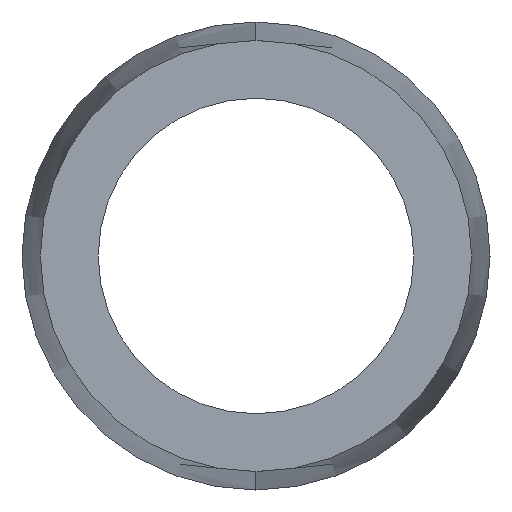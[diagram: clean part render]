
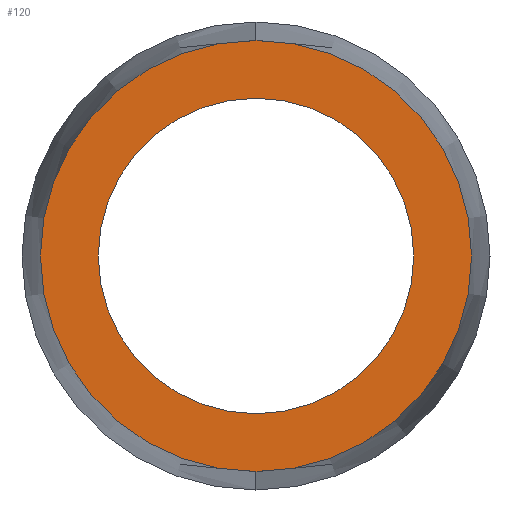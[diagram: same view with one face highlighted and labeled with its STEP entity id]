
A CAD part, left-side view. The second image highlights one B-rep face of the part: STEP entity #120.
In plain terms, the highlighted planar face has unit normal (-1, 0, 0).
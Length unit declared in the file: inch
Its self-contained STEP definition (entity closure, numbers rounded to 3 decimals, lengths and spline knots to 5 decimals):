
#8 = CARTESIAN_POINT ( 'NONE',  ( 0., 0., 0. ) ) ;
#9 = CARTESIAN_POINT ( 'NONE',  ( 0., 0., -0.24872 ) ) ;
#11 = DIRECTION ( 'NONE',  ( -1., 0., 0. ) ) ;
#22 = VERTEX_POINT ( 'NONE', #264 ) ;
#26 = VERTEX_POINT ( 'NONE', #9 ) ;
#27 = CARTESIAN_POINT ( 'NONE',  ( 0., 0., 0. ) ) ;
#36 = AXIS2_PLACEMENT_3D ( 'NONE', #8, #131, #323 ) ;
#38 = EDGE_CURVE ( 'NONE', #26, #337, #65, .T. ) ;
#40 = ORIENTED_EDGE ( 'NONE', *, *, #258, .T. ) ;
#51 = DIRECTION ( 'NONE',  ( -1., 0., 0. ) ) ;
#52 = CARTESIAN_POINT ( 'NONE',  ( 0., 0., 0. ) ) ;
#60 = EDGE_CURVE ( 'NONE', #95, #22, #118, .T. ) ;
#65 = CIRCLE ( 'NONE', #36, 0.24872 ) ;
#70 = ORIENTED_EDGE ( 'NONE', *, *, #38, .T. ) ;
#77 = DIRECTION ( 'NONE',  ( 0., 0., 1. ) ) ;
#78 = AXIS2_PLACEMENT_3D ( 'NONE', #111, #11, #77 ) ;
#84 = DIRECTION ( 'NONE',  ( 0., 0., 1. ) ) ;
#88 = DIRECTION ( 'NONE',  ( 0., 0., 1. ) ) ;
#91 = FACE_OUTER_BOUND ( 'NONE', #179, .T. ) ;
#95 = VERTEX_POINT ( 'NONE', #113 ) ;
#108 = DIRECTION ( 'NONE',  ( 0., 0., -1. ) ) ;
#111 = CARTESIAN_POINT ( 'NONE',  ( 0., 0., 0. ) ) ;
#113 = CARTESIAN_POINT ( 'NONE',  ( 0., 0., -0.182 ) ) ;
#118 = CIRCLE ( 'NONE', #78, 0.182 ) ;
#119 = ORIENTED_EDGE ( 'NONE', *, *, #251, .F. ) ;
#120 = ADVANCED_FACE ( 'NONE', ( #184, #91 ), #240, .F. ) ;
#125 = CIRCLE ( 'NONE', #270, 0.182 ) ;
#131 = DIRECTION ( 'NONE',  ( -1., 0., 0. ) ) ;
#147 = EDGE_LOOP ( 'NONE', ( #119, #332 ) ) ;
#163 = CARTESIAN_POINT ( 'NONE',  ( 0., 0., -0.24872 ) ) ;
#179 = EDGE_LOOP ( 'NONE', ( #70, #40 ) ) ;
#184 = FACE_BOUND ( 'NONE', #147, .T. ) ;
#186 = CIRCLE ( 'NONE', #322, 0.24872 ) ;
#204 = AXIS2_PLACEMENT_3D ( 'NONE', #163, #341, #108 ) ;
#240 = PLANE ( 'NONE',  #204 ) ;
#251 = EDGE_CURVE ( 'NONE', #22, #95, #125, .T. ) ;
#258 = EDGE_CURVE ( 'NONE', #337, #26, #186, .T. ) ;
#264 = CARTESIAN_POINT ( 'NONE',  ( 0., 0., 0.182 ) ) ;
#270 = AXIS2_PLACEMENT_3D ( 'NONE', #27, #51, #84 ) ;
#322 = AXIS2_PLACEMENT_3D ( 'NONE', #52, #346, #88 ) ;
#323 = DIRECTION ( 'NONE',  ( 0., 0., 1. ) ) ;
#332 = ORIENTED_EDGE ( 'NONE', *, *, #60, .F. ) ;
#337 = VERTEX_POINT ( 'NONE', #343 ) ;
#341 = DIRECTION ( 'NONE',  ( 1., 0., 0. ) ) ;
#343 = CARTESIAN_POINT ( 'NONE',  ( 0., 0., 0.24872 ) ) ;
#346 = DIRECTION ( 'NONE',  ( -1., 0., 0. ) ) ;
